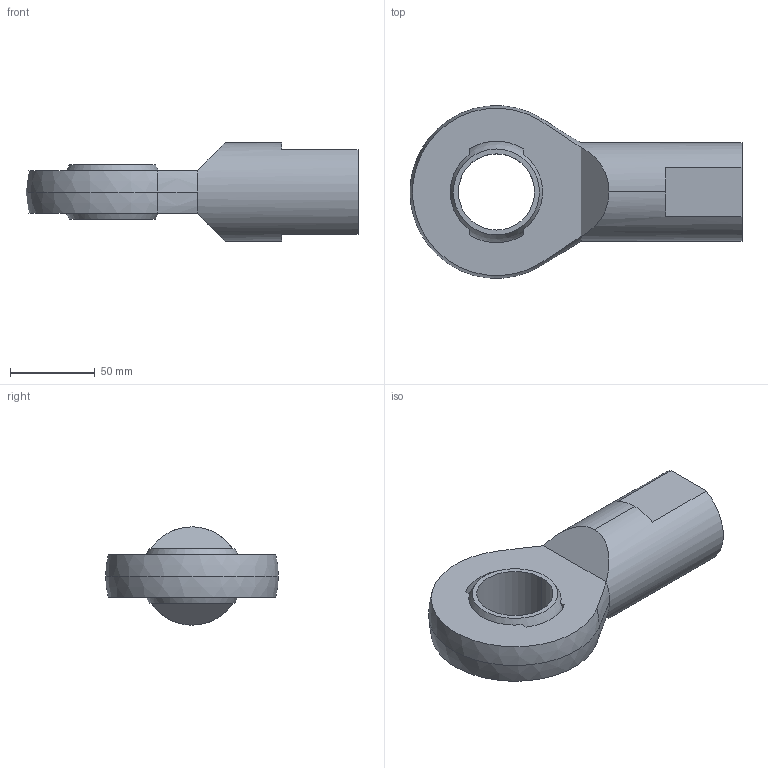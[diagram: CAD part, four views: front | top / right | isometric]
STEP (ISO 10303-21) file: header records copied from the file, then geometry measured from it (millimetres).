
FILE_DESCRIPTION (( 'STEP AP203' ), '1' );
FILE_NAME ('65880.W0246.step', '2014-02-06T18:33:30', ( 'User' ), ( '' ), 'SwSTEP 2.0', 'SolidWorks 2009', '' );
FILE_SCHEMA (( 'CONFIG_CONTROL_DESIGN' ));
Length unit declared in the file: millimetre
Products named in the file (3): Part1_65880.W0246; Part2_65880.W0246; 65880.W0246
Assembly tree (2 placements, depth 2):
  65880.W0246
    Part2_65880.W0246
    Part1_65880.W0246
Bounding box: 196 x 101.79 x 58 mm (x, y, z)
Volume: 311904.1 mm3; surface area: 62439.4 mm2
Topology: 2 solids, 2 shells, 45 faces, 108 edges, 67 vertices
Faces by surface type: plane 20, cylinder 10, sphere 8, cone 7
Entity records: 1624 total; most frequent: DIRECTION 253, CARTESIAN_POINT 253, ORIENTED_EDGE 208, AXIS2_PLACEMENT_3D 107, EDGE_CURVE 104, VERTEX_POINT 67, CIRCLE 57, EDGE_LOOP 53
